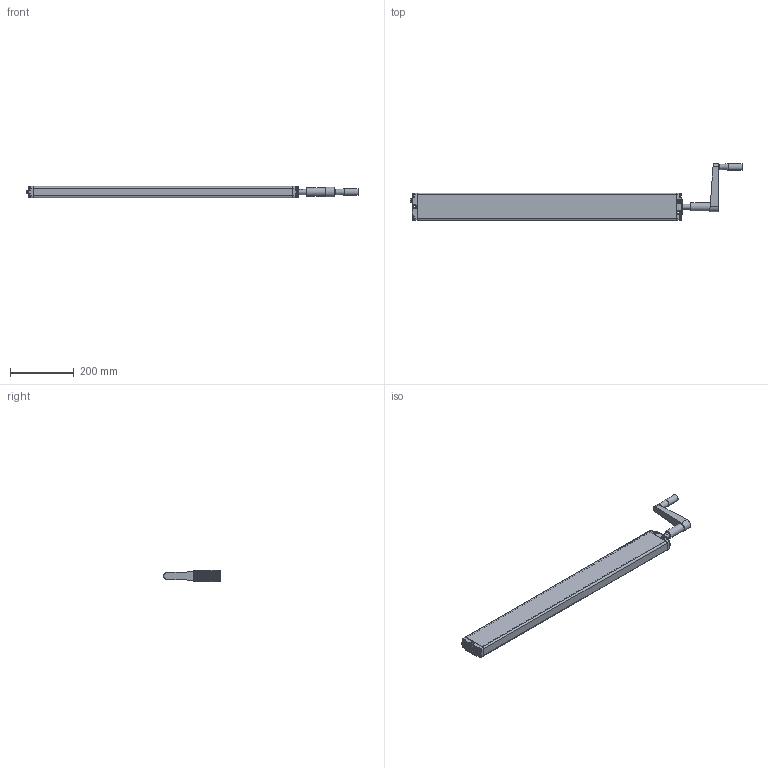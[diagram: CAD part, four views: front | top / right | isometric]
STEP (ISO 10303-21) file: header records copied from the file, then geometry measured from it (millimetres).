
FILE_DESCRIPTION(/* description */ ('Unknown'),/* implementation_level */ '2;1');
FILE_NAME(/* name */ '310.20026 Pumpe PA 1860 W mit Handkurbel',/* time_stamp */ '2016-08-10T16:10:36+02:00',/* author */ ('Unknown'),/* organization */ ('Unknown'),/* preprocessor_version */ 'ST-DEVELOPER v16.7',/* originating_system */ 'DEX',/* authorisation */ $);
FILE_SCHEMA (('AUTOMOTIVE_DESIGN {1 0 10303 214 3 1 1}'));
Products named in the file (20): 100.20026; 115.00036; 125.00045; 115.00008; 142.00021; 125.00021; 113.00005; 128.00001; 125.00052; 126.00013; 125.00053; 127.00014; Handgriff; 142.00013; 125.00146; 122.00040; 126.00002; 119.00026; 126.00001; 142.00057
Assembly tree (27 placements, depth 3):
  100.20026
    115.00036
      125.00045
      115.00008
      142.00021
      125.00021
    113.00005
      128.00001
      125.00052
      126.00013
      125.00053
      127.00014
      Handgriff
    142.00013  x8
    125.00146
    122.00040
    126.00002
    119.00026
    126.00001
    142.00057
    125.00045
Bounding box: 1039.72 x 178 x 35 mm (x, y, z)
Volume: 905798.3 mm3; surface area: 497359.9 mm2
Topology: 24 solids, 24 shells, 1965 faces, 4517 edges, 2566 vertices
Faces by surface type: plane 597, bspline 480, cylinder 454, cone 286, torus 103, sphere 45
Full cylindrical faces by diameter (mm): 3.5 x2, 4 x2, 4.1 x1, 4.2 x3, 4.917 x2, 5 x8, 6.917 x4, 8 x4, 9.8 x8, 10 x4, 10.4 x1, 12.8 x1, 13 x1, 14 x1, 14.4 x2, 16 x2, 17 x1, 17.3 x2, 17.9 x4, 18 x1, 19 x1, 20.6 x1, 21 x1, 22 x1, 25.5 x1
Entity records: 68415 total; most frequent: CARTESIAN_POINT 39240, ORIENTED_EDGE 6038, DIRECTION 5009, EDGE_CURVE 3019, AXIS2_PLACEMENT_3D 2050, VERTEX_POINT 1852, FACE_BOUND 1587, EDGE_LOOP 1584
